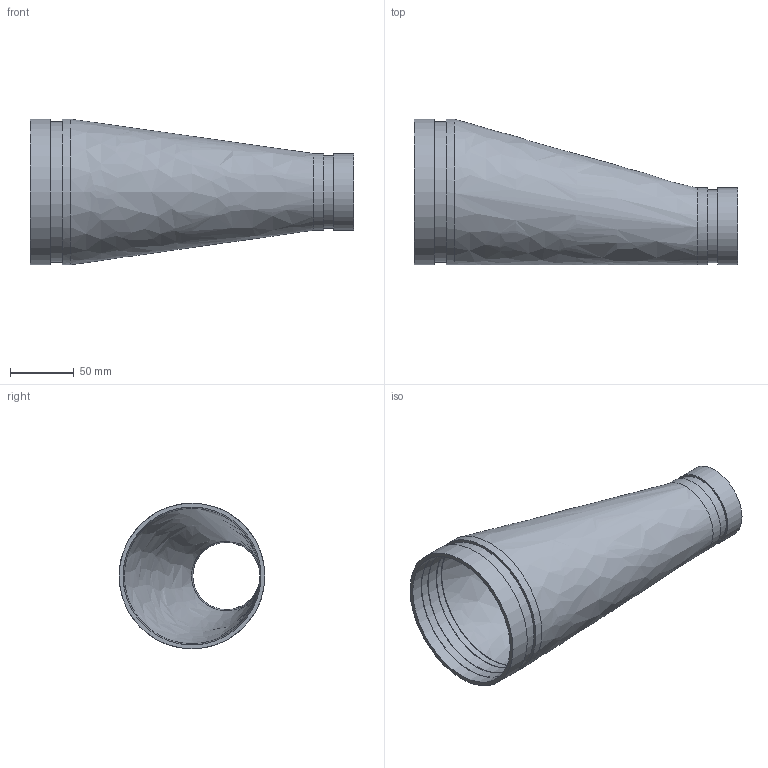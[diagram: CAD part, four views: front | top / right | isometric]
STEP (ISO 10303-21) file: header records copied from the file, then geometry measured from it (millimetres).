
FILE_DESCRIPTION(/* description */ ('VIC REDUCER ECCENTRIC No 451H-SS','CAx-IF Rec.Pracs.---Representation and Presentation of Product Manufacturing Information (PMI)---4.0---2014-10-13'),/* implementation_level */ '2;1');
FILE_NAME(/* name */ 'C:\Users\kkamble\AppData\Roaming\Autodesk\ApplicationPlugins\Back Up\Victaulic_SS-OGS_Reducer Eccentric_Sched 40S_No 451H SS (OGS)\Victaulic_SS-OGS_Reducer Eccentric_Sched 40S_No 451H SS (OGS)_04.0x02.0 (100x50).stp',/* time_stamp */ '2020-08-25T18:05:46+06:00',/* author */ ('CORINNE GRAY'),/* organization */ ('Victaulic'),/* preprocessor_version */ 'ST-DEVELOPER v17.2',/* originating_system */ 'Autodesk Inventor 2019',/* authorisation */ '');
FILE_SCHEMA (('AP242_MANAGED_MODEL_BASED_3D_ENGINEERING_MIM_LF { 1 0 10303 442 1 1 4 }'));
Length unit declared in the file: inch
Products named in the file (1): 451H SS-04.0x02.0
Bounding box: 254 x 114.3 x 114.3 mm (x, y, z)
Volume: 194737.3 mm3; surface area: 139535.2 mm2
Topology: 1 solids, 1 shells, 32 faces, 111 edges, 85 vertices
Faces by surface type: cylinder 12, torus 8, plane 6, cone 4, bspline 2
Full cylindrical faces by diameter (mm): 52.578 x1, 54.864 x2, 57.15 x1, 60.325 x2, 106.324 x1, 108.204 x2, 110.084 x1, 114.3 x2
Entity records: 1504 total; most frequent: DIRECTION 290, CARTESIAN_POINT 282, ORIENTED_EDGE 222, AXIS2_PLACEMENT_3D 137, EDGE_CURVE 111, CIRCLE 93, VERTEX_POINT 85, EDGE_LOOP 38
